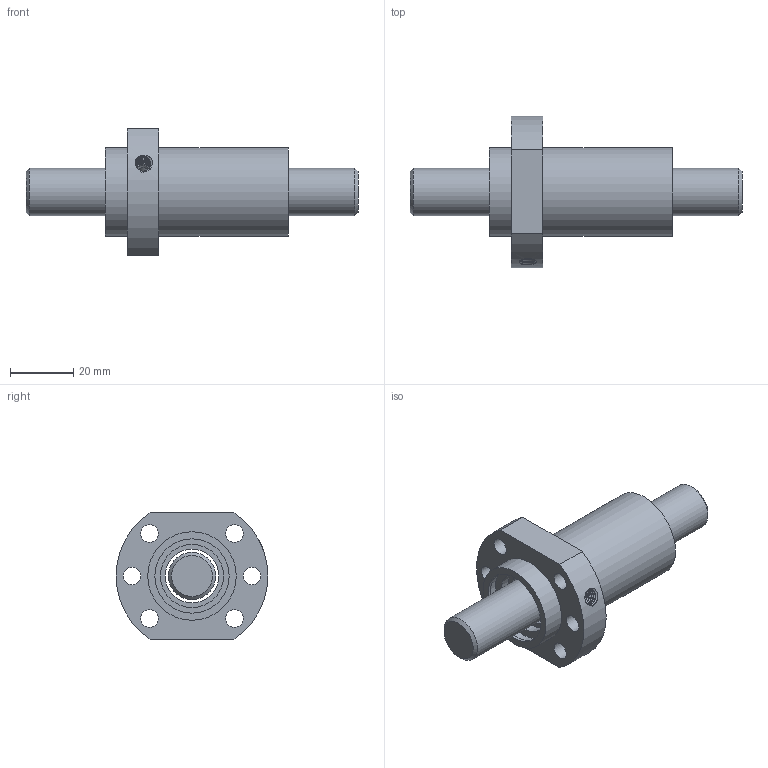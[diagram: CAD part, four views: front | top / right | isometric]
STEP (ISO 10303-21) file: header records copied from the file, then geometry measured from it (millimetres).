
FILE_DESCRIPTION(/* description */ ('Unknown','CAx-IF Rec.Pracs.---Representation and Presentation of Product Manufacturing Information (PMI)---4.0---2014-10-13','CAx-IF Rec.Pracs.---3D Tessellated Geometry---0.4---2014-09-14','2;1'),/* implementation_level */ '2;1');
FILE_NAME(/* name */ 'SFH1620-1.8',/* time_stamp */ '2020-12-07T15:24:47+08:00',/* author */ ('Unknown'),/* organization */ ('Unknown'),/* preprocessor_version */ 'ST-DEVELOPER v16.7',/* originating_system */ 'Solid Edge',/* authorisation */ 'Unknown');
FILE_SCHEMA (('AP242_MANAGED_MODEL_BASED_3D_ENGINEERING_MIM_LF { 1 0 10303 442 1 1 4 }'));
Length unit declared in the file: millimetre
Products named in the file (1): SFH1620-1.8
Bounding box: 105 x 48 x 40 mm (x, y, z)
Volume: 44648 mm3; surface area: 18682.5 mm2
Topology: 2 solids, 2 shells, 42 faces, 86 edges, 56 vertices
Faces by surface type: cylinder 22, plane 15, cone 3, bspline 2
Full cylindrical faces by diameter (mm): 4 x1, 4.917 x1, 5.5 x6, 15 x1, 17 x1, 20 x2, 23.5 x2, 25 x2, 28 x2
Entity records: 3172 total; most frequent: CARTESIAN_POINT 2266, DIRECTION 182, ORIENTED_EDGE 124, AXIS2_PLACEMENT_3D 88, EDGE_LOOP 87, FACE_BOUND 87, EDGE_CURVE 62, VERTEX_POINT 53
